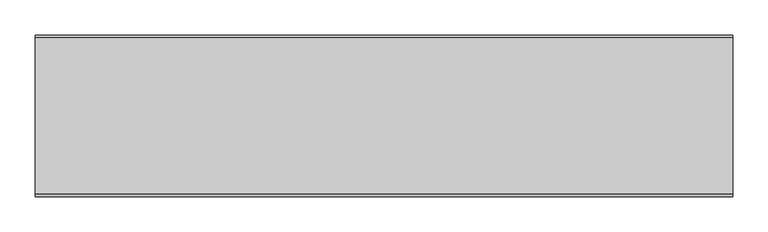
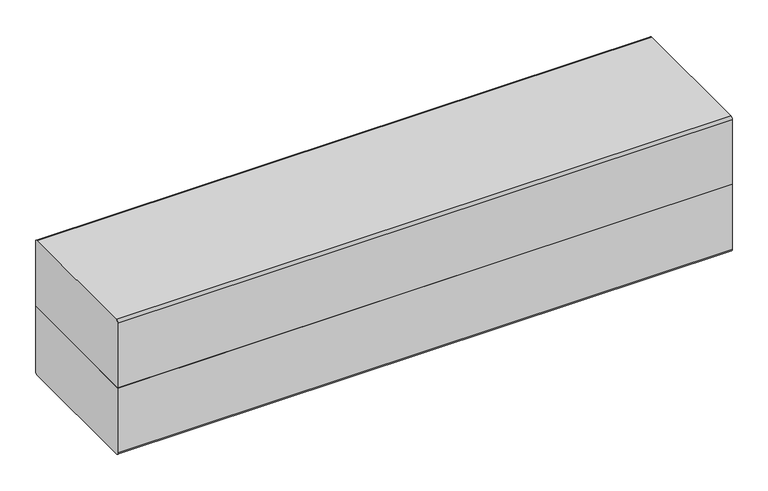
"""IFC4 building model written with IfcOpenShell, lengths in millimetres: proxy geometry, Weiku - Caixa de Persiana : Weiku - Persiana 230mm x 230mm."""

from ifc_helpers import new_model, si_unit, point, frame, frame_2d, origin, place, context, project, spatial, polyline, circle_curve, trimmed, segment, composite_curve, outline, extrude, source, transform, mapped, element, save


def generic_models_c02ab3c6(model_context):
    return source(origin(), model_context, "Body", "SweptSolid", [
        extrude(outline(composite_curve([segment(polyline([(115.0, 0.0), (115.0, -111.0)]), True, "CONTINUOUS"), segment(trimmed(circle_curve(frame_2d((111.0, -111.0)), 4.0), [point((115.0, -111.0))], [point((111.0, -115.0))], False, "CARTESIAN"), True, "CONTINUOUS"), segment(polyline([(111.0, -115.0), (-111.0, -115.0)]), True, "CONTINUOUS"), segment(trimmed(circle_curve(frame_2d((-111.0, -111.0)), 4.0), [point((-111.0, -115.0))], [point((-115.0, -111.0))], False, "CARTESIAN"), True, "CONTINUOUS"), segment(polyline([(-115.0, -111.0), (-115.0, 0.0), (115.0, 0.0)]), True, "CONTINUOUS")], self_intersect=False)), frame((-497.0, 0.0, 0.0), z_axis=(1.0, 0.0, 0.0), x_axis=(0.0, 1.0, 0.0)), (0.0, 0.0, 1.0), 994.0),
        extrude(outline(composite_curve([segment(polyline([(115.0, 0.0), (-115.0, 0.0), (-115.0, 111.0)]), True, "CONTINUOUS"), segment(trimmed(circle_curve(frame_2d((-111.0, 111.0)), 4.0), [point((-115.0, 111.0))], [point((-111.0, 115.0))], False, "CARTESIAN"), True, "CONTINUOUS"), segment(polyline([(-111.0, 115.0), (111.0, 115.0)]), True, "CONTINUOUS"), segment(trimmed(circle_curve(frame_2d((111.0, 111.0)), 4.0), [point((111.0, 115.0))], [point((115.0, 111.0))], False, "CARTESIAN"), True, "CONTINUOUS"), segment(polyline([(115.0, 111.0), (115.0, 0.0)]), True, "CONTINUOUS")], self_intersect=False)), frame((-497.0, 0.0, 0.0), z_axis=(1.0, 0.0, 0.0), x_axis=(0.0, 1.0, 0.0)), (0.0, 0.0, 1.0), 994.0),
    ])


if __name__ == "__main__":
    model = new_model("IFC4")
    model_context = context("Model", 3, world=origin())
    ifc_project = project(units=[si_unit("LENGTHUNIT", "METRE", prefix="MILLI")], contexts=[model_context])
    site = spatial("IfcSite", under=ifc_project)
    building = spatial("IfcBuilding", under=site)
    placement = place(None, origin())
    generic_models_shape = generic_models_c02ab3c6(model_context)
    element("IfcBuildingElementProxy", 1, Name="Weiku - Caixa de Persiana : Weiku - Persiana 230mm x 230mm", ObjectType="Weiku - Caixa de Persiana : Weiku - Persiana 230mm x 230mm", at=placement, inside=building, context=model_context, shape_type="MappedRepresentation", body=[
        mapped(generic_models_shape, transform((0.0, 0.0, 0.0), x_axis=(1.0, 0.0, 0.0), y_axis=(0.0, 1.0, 0.0), z_axis=(0.0, 0.0, 1.0))),
    ])
    save(model, "model.ifc")
